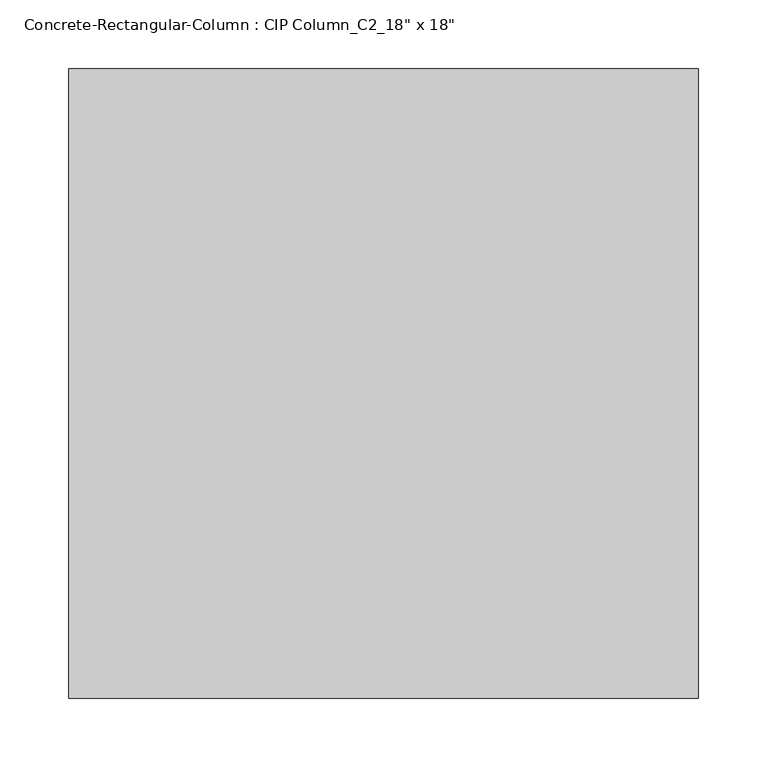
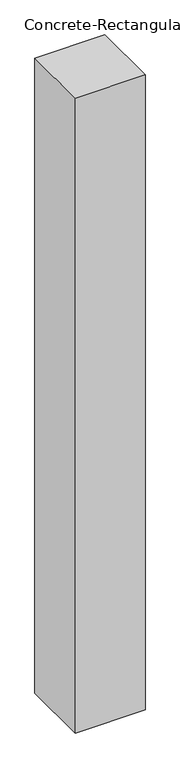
"""IFC4 building model written with IfcOpenShell, lengths in millimetres: column geometry."""

from ifc_helpers import new_model, si_unit, frame, origin, place, context, project, spatial, polyline, outline, extrude, source, transform, mapped, element, save


def column_3cd15463(model_context):
    return source(origin(), model_context, "Body", "SweptSolid", [
        extrude(outline(polyline([(228.6, 228.6), (228.6, -228.6), (-228.6, -228.6), (-228.6, 228.6), (228.6, 228.6)])), frame((0.0, 0.0, 9017.0), z_axis=(0.0, 0.0, 1.0), x_axis=(1.0, 0.0, 0.0)), (0.0, 0.0, 1.0), 4394.2),
    ])


if __name__ == "__main__":
    model = new_model("IFC4")
    model_context = context("Model", 3, world=origin())
    ifc_project = project(units=[si_unit("LENGTHUNIT", "METRE", prefix="MILLI")], contexts=[model_context])
    site = spatial("IfcSite", under=ifc_project)
    building = spatial("IfcBuilding", under=site)
    placement = place(None, origin())
    column_shape = column_3cd15463(model_context)
    element("IfcColumn", 1, ObjectType="Concrete-Rectangular-Column : CIP Column_C2_18\" x 18\"", at=placement, inside=building, context=model_context, shape_type="MappedRepresentation", body=[
        mapped(column_shape, transform((0.0, 0.0, 0.0), x_axis=(1.0, 0.0, 0.0), y_axis=(0.0, 1.0, 0.0), z_axis=(0.0, 0.0, 1.0))),
    ])
    save(model, "model.ifc")
